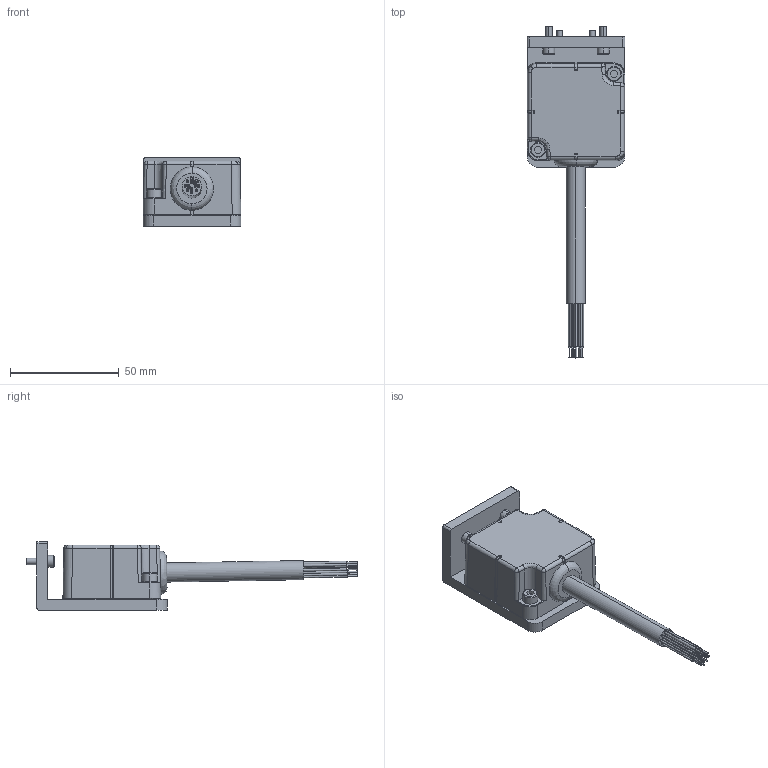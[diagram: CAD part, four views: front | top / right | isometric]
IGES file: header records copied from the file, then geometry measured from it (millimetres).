
Start section: 3D InterOp IGES (v. 2022 1.0.0), Spatial Corp. Copyright (c) 1999-2020.
Global section: file name: KHF-12HS-NN12,NP12_ver1.igs; native system: Spatial Corp.; preprocessor: 3D InterOp GENERIC/IGES 3.0; author: Noname; organization: Noname; date: 20260427.134603; units: millimetre
Bounding box: 45 x 152.84 x 31.5 mm (x, y, z)
Surface area: 21046.1 mm2 (no closed solid volume)
Topology: 0 solids, 0 shells, 331 faces, 1532 edges, 1532 vertices
Faces by surface type: revolution 198, extrusion 117, bspline 16
